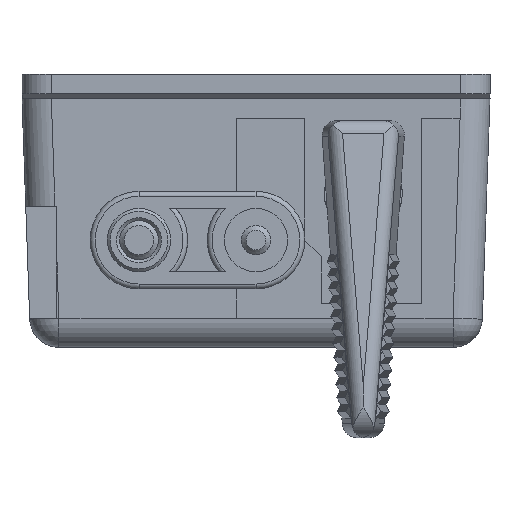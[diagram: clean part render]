
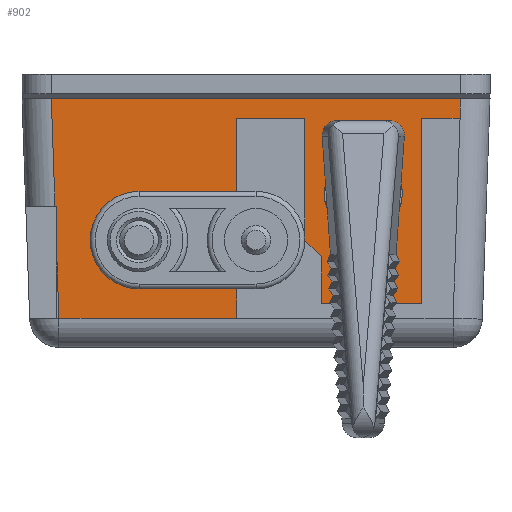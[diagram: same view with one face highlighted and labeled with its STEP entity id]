
A CAD part, left-side view. The second image highlights one B-rep face of the part: STEP entity #902.
In plain terms, the highlighted planar face has unit normal (-1, 0, 0).
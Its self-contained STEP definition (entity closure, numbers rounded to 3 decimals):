
#902 = ADVANCED_FACE( '', ( #2229, #2230 ), #2231, .F. );
#2229 = FACE_BOUND( '', #4218, .T. );
#2230 = FACE_OUTER_BOUND( '', #4219, .T. );
#2231 = PLANE( '', #4220 );
#4218 = EDGE_LOOP( '', ( #6440 ) );
#4219 = EDGE_LOOP( '', ( #6441, #6442, #6443, #6444, #6445, #6446, #6447, #6448, #6449, #6450, #6451, #6452, #6453, #6454, #6455, #6456, #6457, #6458, #6459 ) );
#4220 = AXIS2_PLACEMENT_3D( '', #6460, #6461, #6462 );
#6440 = ORIENTED_EDGE( '', *, *, #11688, .T. );
#6441 = ORIENTED_EDGE( '', *, *, #11689, .F. );
#6442 = ORIENTED_EDGE( '', *, *, #11681, .F. );
#6443 = ORIENTED_EDGE( '', *, *, #11690, .F. );
#6444 = ORIENTED_EDGE( '', *, *, #11691, .F. );
#6445 = ORIENTED_EDGE( '', *, *, #11692, .F. );
#6446 = ORIENTED_EDGE( '', *, *, #11693, .F. );
#6447 = ORIENTED_EDGE( '', *, *, #11694, .F. );
#6448 = ORIENTED_EDGE( '', *, *, #11695, .F. );
#6449 = ORIENTED_EDGE( '', *, *, #11696, .F. );
#6450 = ORIENTED_EDGE( '', *, *, #11697, .T. );
#6451 = ORIENTED_EDGE( '', *, *, #11698, .F. );
#6452 = ORIENTED_EDGE( '', *, *, #11699, .T. );
#6453 = ORIENTED_EDGE( '', *, *, #11700, .T. );
#6454 = ORIENTED_EDGE( '', *, *, #11701, .F. );
#6455 = ORIENTED_EDGE( '', *, *, #11702, .T. );
#6456 = ORIENTED_EDGE( '', *, *, #11703, .T. );
#6457 = ORIENTED_EDGE( '', *, *, #11704, .F. );
#6458 = ORIENTED_EDGE( '', *, *, #11469, .F. );
#6459 = ORIENTED_EDGE( '', *, *, #11705, .F. );
#6460 = CARTESIAN_POINT( '', ( -30., 24., 25.5 ) );
#6461 = DIRECTION( '', ( 1., 0., 0. ) );
#6462 = DIRECTION( '', ( 0., 1., 0. ) );
#11469 = EDGE_CURVE( '', #13703, #13705, #13706, .T. );
#11681 = EDGE_CURVE( '', #14095, #14091, #14097, .T. );
#11688 = EDGE_CURVE( '', #14108, #14108, #14109, .T. );
#11689 = EDGE_CURVE( '', #14091, #14110, #14111, .T. );
#11690 = EDGE_CURVE( '', #14112, #14095, #14113, .T. );
#11691 = EDGE_CURVE( '', #14114, #14112, #14115, .T. );
#11692 = EDGE_CURVE( '', #14116, #14114, #14117, .T. );
#11693 = EDGE_CURVE( '', #14118, #14116, #14119, .T. );
#11694 = EDGE_CURVE( '', #14120, #14118, #14121, .T. );
#11695 = EDGE_CURVE( '', #14122, #14120, #14123, .T. );
#11696 = EDGE_CURVE( '', #14005, #14122, #14124, .T. );
#11697 = EDGE_CURVE( '', #14005, #14125, #14126, .T. );
#11698 = EDGE_CURVE( '', #14127, #14125, #14128, .T. );
#11699 = EDGE_CURVE( '', #14127, #14129, #14130, .F. );
#11700 = EDGE_CURVE( '', #14129, #14131, #14132, .T. );
#11701 = EDGE_CURVE( '', #14133, #14131, #14134, .T. );
#11702 = EDGE_CURVE( '', #14133, #14135, #14136, .F. );
#11703 = EDGE_CURVE( '', #14135, #14137, #14138, .T. );
#11704 = EDGE_CURVE( '', #13705, #14137, #14139, .T. );
#11705 = EDGE_CURVE( '', #14110, #13703, #14140, .F. );
#13703 = VERTEX_POINT( '', #16771 );
#13705 = VERTEX_POINT( '', #16774 );
#13706 = LINE( '', #16775, #16776 );
#14005 = VERTEX_POINT( '', #17234 );
#14091 = VERTEX_POINT( '', #17353 );
#14095 = VERTEX_POINT( '', #17359 );
#14097 = LINE( '', #17362, #17363 );
#14108 = VERTEX_POINT( '', #17378 );
#14109 = CIRCLE( '', #17379, 4. );
#14110 = VERTEX_POINT( '', #17380 );
#14111 = LINE( '', #17381, #17382 );
#14112 = VERTEX_POINT( '', #17383 );
#14113 = LINE( '', #17384, #17385 );
#14114 = VERTEX_POINT( '', #17386 );
#14115 = LINE( '', #17387, #17388 );
#14116 = VERTEX_POINT( '', #17389 );
#14117 = LINE( '', #17390, #17391 );
#14118 = VERTEX_POINT( '', #17392 );
#14119 = LINE( '', #17393, #17394 );
#14120 = VERTEX_POINT( '', #17395 );
#14121 = LINE( '', #17396, #17397 );
#14122 = VERTEX_POINT( '', #17398 );
#14123 = LINE( '', #17399, #17400 );
#14124 = LINE( '', #17401, #17402 );
#14125 = VERTEX_POINT( '', #17403 );
#14126 = LINE( '', #17404, #17405 );
#14127 = VERTEX_POINT( '', #17406 );
#14128 = LINE( '', #17407, #17408 );
#14129 = VERTEX_POINT( '', #17409 );
#14130 = LINE( '', #17410, #17411 );
#14131 = VERTEX_POINT( '', #17412 );
#14132 = LINE( '', #17413, #17414 );
#14133 = VERTEX_POINT( '', #17415 );
#14134 = LINE( '', #17416, #17417 );
#14135 = VERTEX_POINT( '', #17418 );
#14136 = LINE( '', #17419, #17420 );
#14137 = VERTEX_POINT( '', #17421 );
#14138 = LINE( '', #17422, #17423 );
#14139 = LINE( '', #17424, #17425 );
#14140 = CIRCLE( '', #17426, 5. );
#16771 = CARTESIAN_POINT( '', ( -30., 12., 6. ) );
#16774 = CARTESIAN_POINT( '', ( -30., 1.997, 6. ) );
#16775 = CARTESIAN_POINT( '', ( -30., 24., 6. ) );
#16776 = VECTOR( '', #21305, 1000. );
#17234 = CARTESIAN_POINT( '', ( -30., -20.928, 23.5 ) );
#17353 = CARTESIAN_POINT( '', ( -30., 1.997, 16. ) );
#17359 = CARTESIAN_POINT( '', ( -30., 1.997, 23.5 ) );
#17362 = CARTESIAN_POINT( '', ( -30., 1.997, 23.5 ) );
#17363 = VECTOR( '', #21536, 1000. );
#17378 = CARTESIAN_POINT( '', ( -30., -15., 15.7 ) );
#17379 = AXIS2_PLACEMENT_3D( '', #21541, #21542, #21543 );
#17380 = CARTESIAN_POINT( '', ( -30., 12., 16. ) );
#17381 = CARTESIAN_POINT( '', ( -30., 24., 16. ) );
#17382 = VECTOR( '', #21544, 1000. );
#17383 = CARTESIAN_POINT( '', ( -30., -5.003, 23.5 ) );
#17384 = CARTESIAN_POINT( '', ( -30., -5.003, 23.5 ) );
#17385 = VECTOR( '', #21545, 1000. );
#17386 = CARTESIAN_POINT( '', ( -30., -5.003, 11. ) );
#17387 = CARTESIAN_POINT( '', ( -30., -5.003, 11. ) );
#17388 = VECTOR( '', #21546, 1000. );
#17389 = CARTESIAN_POINT( '', ( -30., -6.703, 9.3 ) );
#17390 = CARTESIAN_POINT( '', ( -30., -6.703, 9.3 ) );
#17391 = VECTOR( '', #21547, 1000. );
#17392 = CARTESIAN_POINT( '', ( -30., -6.703, 4.5 ) );
#17393 = CARTESIAN_POINT( '', ( -30., -6.703, 4.5 ) );
#17394 = VECTOR( '', #21548, 1000. );
#17395 = CARTESIAN_POINT( '', ( -30., -17.003, 4.5 ) );
#17396 = CARTESIAN_POINT( '', ( -30., -17.003, 4.5 ) );
#17397 = VECTOR( '', #21549, 1000. );
#17398 = CARTESIAN_POINT( '', ( -30., -17.003, 23.5 ) );
#17399 = CARTESIAN_POINT( '', ( -30., -17.003, 23.5 ) );
#17400 = VECTOR( '', #21550, 1000. );
#17401 = CARTESIAN_POINT( '', ( -30., -20.928, 23.5 ) );
#17402 = VECTOR( '', #21551, 1000. );
#17403 = CARTESIAN_POINT( '', ( -30., -20.998, 25.5 ) );
#17404 = CARTESIAN_POINT( '', ( -30., -20.943, 23.931 ) );
#17405 = VECTOR( '', #21552, 1000. );
#17406 = CARTESIAN_POINT( '', ( -30., 20.998, 25.5 ) );
#17407 = CARTESIAN_POINT( '', ( -30., 24., 25.5 ) );
#17408 = VECTOR( '', #21553, 1000. );
#17409 = CARTESIAN_POINT( '', ( -30., 20.614, 14.5 ) );
#17410 = CARTESIAN_POINT( '', ( -30., 21.002, 25.605 ) );
#17411 = VECTOR( '', #21554, 1000. );
#17412 = CARTESIAN_POINT( '', ( -30., 20.5, 14.5 ) );
#17413 = CARTESIAN_POINT( '', ( -30., 40.255, 14.5 ) );
#17414 = VECTOR( '', #21555, 1000. );
#17415 = CARTESIAN_POINT( '', ( -30., 20.5, 11.234 ) );
#17416 = CARTESIAN_POINT( '', ( -30., 20.5, 3. ) );
#17417 = VECTOR( '', #21556, 1000. );
#17418 = CARTESIAN_POINT( '', ( -30., 20.212, 3. ) );
#17419 = CARTESIAN_POINT( '', ( -30., 21.002, 25.605 ) );
#17420 = VECTOR( '', #21557, 1000. );
#17421 = CARTESIAN_POINT( '', ( -30., 1.997, 3. ) );
#17422 = CARTESIAN_POINT( '', ( -30., 24., 3. ) );
#17423 = VECTOR( '', #21558, 1000. );
#17424 = CARTESIAN_POINT( '', ( -30., 1.997, 8.436 ) );
#17425 = VECTOR( '', #21559, 1000. );
#17426 = AXIS2_PLACEMENT_3D( '', #21560, #21561, #21562 );
#21305 = DIRECTION( '', ( 0., -1., 0. ) );
#21536 = DIRECTION( '', ( 0., 0., -1. ) );
#21541 = CARTESIAN_POINT( '', ( -30., -11., 15.7 ) );
#21542 = DIRECTION( '', ( 1., 0., 0. ) );
#21543 = DIRECTION( '', ( 0., -1., 0. ) );
#21544 = DIRECTION( '', ( 0., 1., 0. ) );
#21545 = DIRECTION( '', ( 0., 1., 0. ) );
#21546 = DIRECTION( '', ( 0., 0., 1. ) );
#21547 = DIRECTION( '', ( 0., 0.707, 0.707 ) );
#21548 = DIRECTION( '', ( 0., 0., 1. ) );
#21549 = DIRECTION( '', ( 0., 1., 0. ) );
#21550 = DIRECTION( '', ( 0., 0., -1. ) );
#21551 = DIRECTION( '', ( 0., 1., 0. ) );
#21552 = DIRECTION( '', ( 0., -0.035, 0.999 ) );
#21553 = DIRECTION( '', ( 0., -1., 0. ) );
#21554 = DIRECTION( '', ( 0., 0.035, 0.999 ) );
#21555 = DIRECTION( '', ( 0., -1., 0. ) );
#21556 = DIRECTION( '', ( 0., 0., 1. ) );
#21557 = DIRECTION( '', ( 0., 0.035, 0.999 ) );
#21558 = DIRECTION( '', ( 0., -1., 0. ) );
#21559 = DIRECTION( '', ( 0., 0., -1. ) );
#21560 = CARTESIAN_POINT( '', ( -30., 12., 11. ) );
#21561 = DIRECTION( '', ( 1., 0., 0. ) );
#21562 = DIRECTION( '', ( 0., 1., 0. ) );
